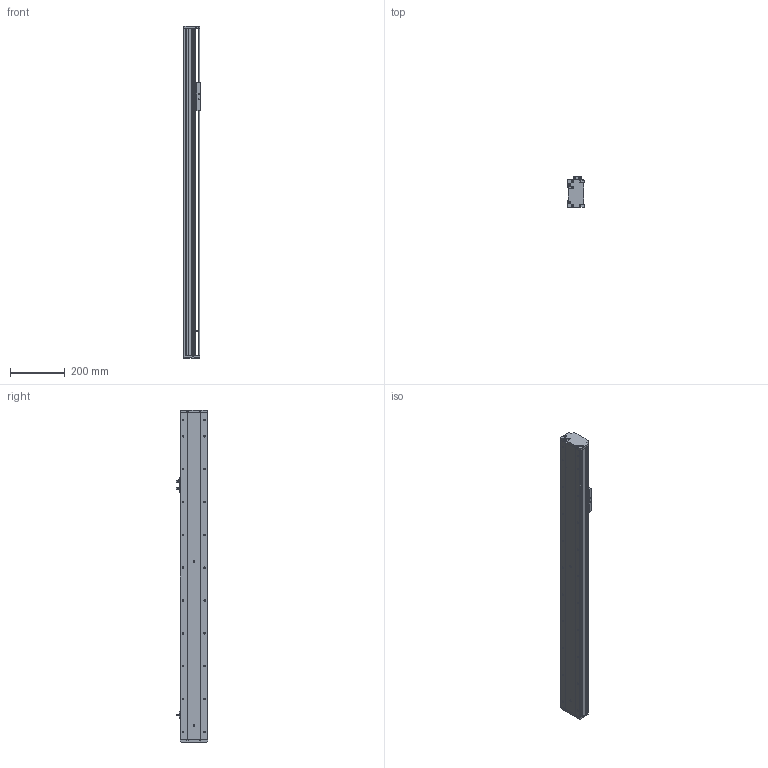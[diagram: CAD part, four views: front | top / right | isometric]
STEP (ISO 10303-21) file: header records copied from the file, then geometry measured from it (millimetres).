
FILE_DESCRIPTION (( 'STEP AP214' ), '1' );
FILE_NAME ('KSD100S-S850-M-CM.STEP', '2019-08-30T01:01:47', ( '微软用户' ), ( '微软中国' ), 'SwSTEP 2.0', 'SolidWorks 2014', '' );
FILE_SCHEMA (( 'AUTOMOTIVE_DESIGN' ));
Length unit declared in the file: millimetre
Products named in the file (8): 覜茼え100遵圉猾敕; U倰嫖萇EEㄜSX672; 100宽防尘板丝杆850行程电机内装; 100宽马达安装板-电机内装; 100宽滚珠螺姆安装板半封闭; 100遵傷啣; 100宽底板半封闭丝杆850行程电机内装; KSD100S-S850-M-CM
Assembly tree (9 placements, depth 2):
  KSD100S-S850-M-CM
    100宽底板半封闭丝杆850行程电机内装
    100遵傷啣
    100宽滚珠螺姆安装板半封闭
    100宽马达安装板-电机内装
    100宽防尘板丝杆850行程电机内装
    U倰嫖萇EEㄜSX672  x3
    覜茼え100遵圉猾敕
Bounding box: 60 x 113.7 x 1213 mm (x, y, z)
Volume: 2301438 mm3; surface area: 836345.8 mm2
Topology: 9 solids, 9 shells, 1149 faces, 3288 edges, 2063 vertices
Faces by surface type: cylinder 552, plane 456, cone 141
Entity records: 40818 total; most frequent: CARTESIAN_POINT 8810, DIRECTION 5269, ORIENTED_EDGE 5196, EDGE_CURVE 2598, AXIS2_PLACEMENT_3D 1902, VERTEX_POINT 1687, LINE 1465, VECTOR 1465
